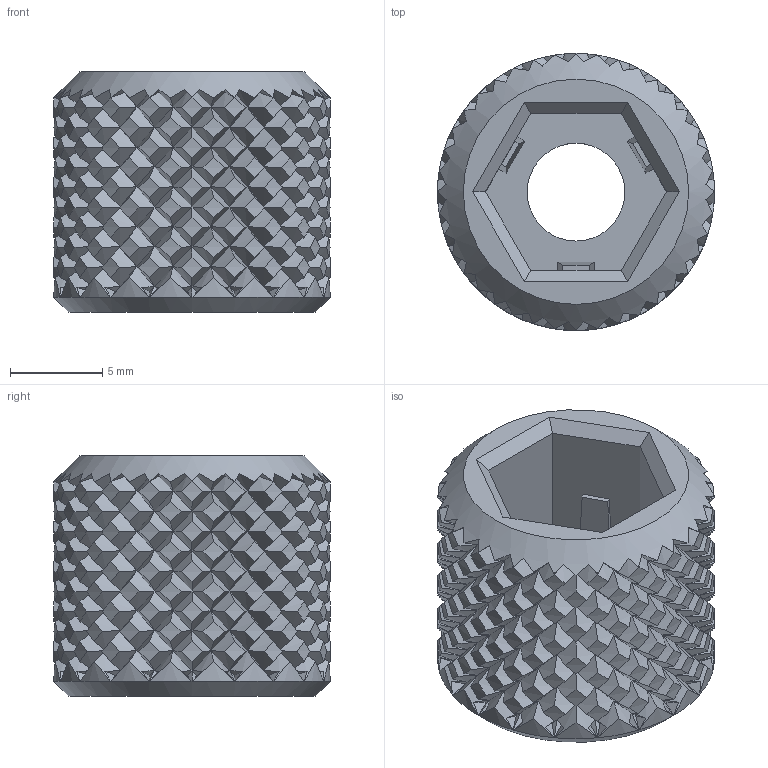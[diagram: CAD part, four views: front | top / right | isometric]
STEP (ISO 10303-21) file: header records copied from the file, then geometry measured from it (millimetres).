
FILE_DESCRIPTION(/* description */ ('STEP AP214'),/* implementation_level */ '2;1');
FILE_NAME(/* name */ '60a06c149d6dee12760d73e4',/* time_stamp */ '2021-05-16T00:49:26+00:00',/* author */ (''),/* organization */ (''),/* preprocessor_version */ 'ST-DEVELOPER v18.1',/* originating_system */ ' ',/* authorisation */ ' ');
FILE_SCHEMA (('AUTOMOTIVE_DESIGN {1 0 10303 214 3 1 1}'));
Products named in the file (1): M5 Knob Diamond Knurl
Bounding box: 15 x 15 x 13 mm (x, y, z)
Volume: 1328.7 mm3; surface area: 1760.1 mm2
Topology: 1 solids, 1 shells, 1190 faces, 2374 edges, 1187 vertices
Faces by surface type: bspline 880, cylinder 201, plane 107, cone 2
Full cylindrical faces by diameter (mm): 5.3 x1
Entity records: 37156 total; most frequent: CARTESIAN_POINT 22307, ORIENTED_EDGE 4740, EDGE_CURVE 2370, EDGE_LOOP 1196, FACE_BOUND 1196, ADVANCED_FACE 1190, VERTEX_POINT 1186, B_SPLINE_CURVE_WITH_KNOTS 920
